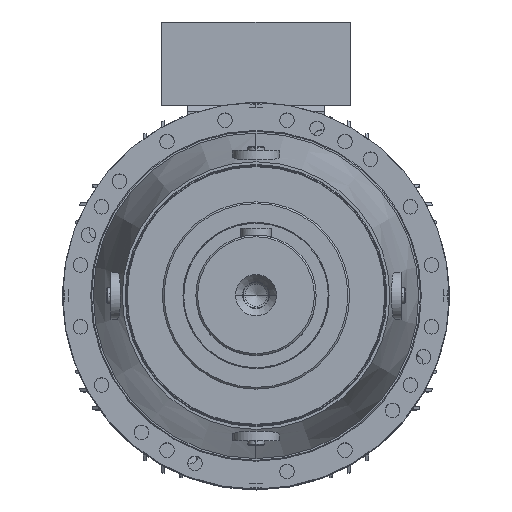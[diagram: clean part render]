
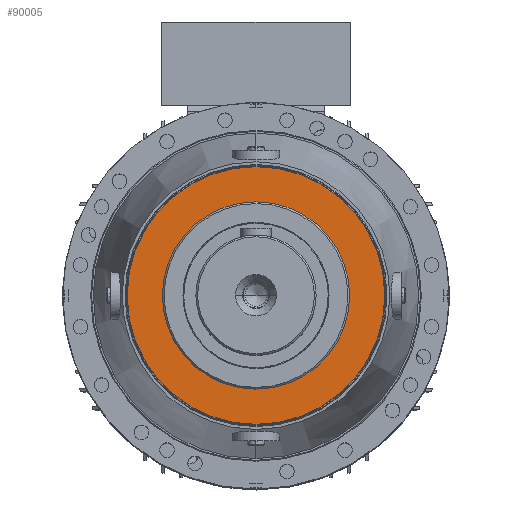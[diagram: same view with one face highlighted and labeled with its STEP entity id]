
A CAD part, top view. The second image highlights one B-rep face of the part: STEP entity #90005.
In plain terms, the highlighted planar face has unit normal (0, 0, 1).
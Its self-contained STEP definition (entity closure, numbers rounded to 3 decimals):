
#6127 = EDGE_LOOP ( 'NONE', ( #75402, #75397 ) ) ;
#6175 = EDGE_LOOP ( 'NONE', ( #75382, #75364 ) ) ;
#7171 = CARTESIAN_POINT ( 'NONE',  ( 0., 0., 220. ) ) ;
#7173 = DIRECTION ( 'NONE',  ( 0., 0., -1. ) ) ;
#7211 = DIRECTION ( 'NONE',  ( 0., 1., 0. ) ) ;
#7239 = DIRECTION ( 'NONE',  ( 0., 1., 0. ) ) ;
#7243 = CARTESIAN_POINT ( 'NONE',  ( 0., 0., 220. ) ) ;
#7245 = DIRECTION ( 'NONE',  ( 0., 0., -1. ) ) ;
#20688 = FACE_BOUND ( 'NONE', #6175, .T. ) ;
#20690 = FACE_OUTER_BOUND ( 'NONE', #6127, .T. ) ;
#29312 = DIRECTION ( 'NONE',  ( 0., 1., 0. ) ) ;
#29319 = PLANE ( 'NONE',  #49164 ) ;
#29348 = DIRECTION ( 'NONE',  ( 0., 0., -1. ) ) ;
#29352 = CARTESIAN_POINT ( 'NONE',  ( 0., 150., 220. ) ) ;
#31424 = AXIS2_PLACEMENT_3D ( 'NONE', #33243, #33259, #33276 ) ;
#31430 = AXIS2_PLACEMENT_3D ( 'NONE', #7243, #7245, #7239 ) ;
#31446 = AXIS2_PLACEMENT_3D ( 'NONE', #7171, #7173, #7211 ) ;
#31449 = AXIS2_PLACEMENT_3D ( 'NONE', #33088, #33089, #33074 ) ;
#33074 = DIRECTION ( 'NONE',  ( 0., 1., 0. ) ) ;
#33088 = CARTESIAN_POINT ( 'NONE',  ( 0., 0., 220. ) ) ;
#33089 = DIRECTION ( 'NONE',  ( 0., 0., 1. ) ) ;
#33243 = CARTESIAN_POINT ( 'NONE',  ( 0., 0., 220. ) ) ;
#33259 = DIRECTION ( 'NONE',  ( 0., 0., 1. ) ) ;
#33276 = DIRECTION ( 'NONE',  ( 0., 1., 0. ) ) ;
#35736 = EDGE_CURVE ( 'NONE', #51138, #51181, #58537, .T. ) ;
#35820 = EDGE_CURVE ( 'NONE', #51181, #51138, #58703, .T. ) ;
#35939 = EDGE_CURVE ( 'NONE', #51178, #51135, #58867, .T. ) ;
#35955 = EDGE_CURVE ( 'NONE', #51135, #51178, #58973, .T. ) ;
#49164 = AXIS2_PLACEMENT_3D ( 'NONE', #29352, #29348, #29312 ) ;
#51135 = VERTEX_POINT ( 'NONE', #85631 ) ;
#51138 = VERTEX_POINT ( 'NONE', #85581 ) ;
#51178 = VERTEX_POINT ( 'NONE', #85579 ) ;
#51181 = VERTEX_POINT ( 'NONE', #85567 ) ;
#58537 = CIRCLE ( 'NONE', #31449, 109. ) ;
#58703 = CIRCLE ( 'NONE', #31424, 109. ) ;
#58867 = CIRCLE ( 'NONE', #31446, 150. ) ;
#58973 = CIRCLE ( 'NONE', #31430, 150. ) ;
#75364 = ORIENTED_EDGE ( 'NONE', *, *, #35820, .F. ) ;
#75382 = ORIENTED_EDGE ( 'NONE', *, *, #35736, .F. ) ;
#75397 = ORIENTED_EDGE ( 'NONE', *, *, #35939, .F. ) ;
#75402 = ORIENTED_EDGE ( 'NONE', *, *, #35955, .F. ) ;
#85567 = CARTESIAN_POINT ( 'NONE',  ( 0., -109., 220. ) ) ;
#85579 = CARTESIAN_POINT ( 'NONE',  ( 0., -150., 220. ) ) ;
#85581 = CARTESIAN_POINT ( 'NONE',  ( 0., 109., 220. ) ) ;
#85631 = CARTESIAN_POINT ( 'NONE',  ( 0., 150., 220. ) ) ;
#90005 = ADVANCED_FACE ( 'NONE', ( #20688, #20690 ), #29319, .F. ) ;
